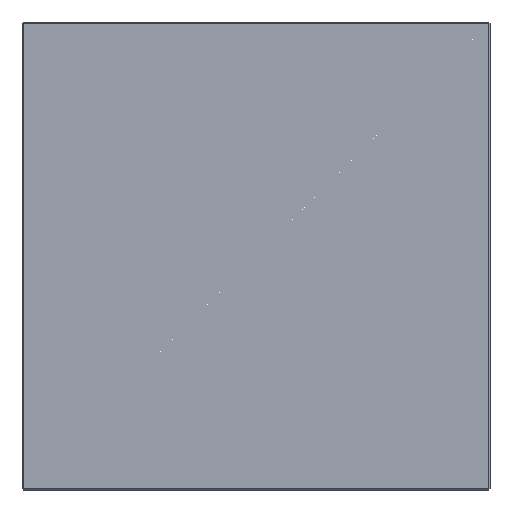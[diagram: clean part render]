
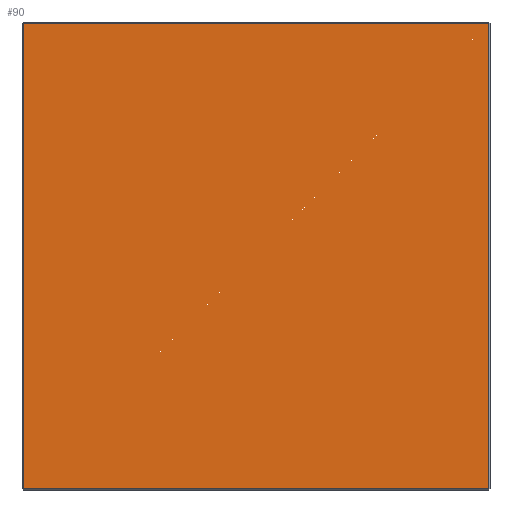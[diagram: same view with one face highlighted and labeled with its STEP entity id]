
A CAD part, front view. The second image highlights one B-rep face of the part: STEP entity #90.
In plain terms, the highlighted planar face has unit normal (0, -1, 0).
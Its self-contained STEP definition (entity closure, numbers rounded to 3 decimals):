
#24 = ORIENTED_EDGE ( 'NONE', *, *, #452, .T. ) ;
#56 = VECTOR ( 'NONE', #174, 1000. ) ;
#60 = EDGE_CURVE ( 'NONE', #337, #297, #433, .T. ) ;
#64 = VECTOR ( 'NONE', #495, 1000. ) ;
#78 = CARTESIAN_POINT ( 'NONE',  ( -172., 0., -172. ) ) ;
#90 = ADVANCED_FACE ( 'NONE', ( #274 ), #239, .F. ) ;
#126 = LINE ( 'NONE', #543, #201 ) ;
#170 = CARTESIAN_POINT ( 'NONE',  ( 172., 0., 0. ) ) ;
#174 = DIRECTION ( 'NONE',  ( 0., 0., 1. ) ) ;
#179 = VERTEX_POINT ( 'NONE', #512 ) ;
#196 = ORIENTED_EDGE ( 'NONE', *, *, #628, .T. ) ;
#197 = VECTOR ( 'NONE', #494, 1000. ) ;
#201 = VECTOR ( 'NONE', #488, 1000. ) ;
#230 = EDGE_CURVE ( 'NONE', #400, #337, #435, .T. ) ;
#239 = PLANE ( 'NONE',  #358 ) ;
#262 = EDGE_LOOP ( 'NONE', ( #498, #24, #196, #533 ) ) ;
#274 = FACE_OUTER_BOUND ( 'NONE', #262, .T. ) ;
#297 = VERTEX_POINT ( 'NONE', #582 ) ;
#333 = CARTESIAN_POINT ( 'NONE',  ( 0., 0., 172. ) ) ;
#337 = VERTEX_POINT ( 'NONE', #601 ) ;
#358 = AXIS2_PLACEMENT_3D ( 'NONE', #475, #436, #426 ) ;
#400 = VERTEX_POINT ( 'NONE', #78 ) ;
#426 = DIRECTION ( 'NONE',  ( 0., 0., 1. ) ) ;
#433 = LINE ( 'NONE', #170, #56 ) ;
#435 = LINE ( 'NONE', #530, #197 ) ;
#436 = DIRECTION ( 'NONE',  ( 0., 1., 0. ) ) ;
#452 = EDGE_CURVE ( 'NONE', #297, #179, #457, .T. ) ;
#457 = LINE ( 'NONE', #333, #64 ) ;
#475 = CARTESIAN_POINT ( 'NONE',  ( 0., 0., 0. ) ) ;
#488 = DIRECTION ( 'NONE',  ( 0., 0., -1. ) ) ;
#494 = DIRECTION ( 'NONE',  ( 1., 0., 0. ) ) ;
#495 = DIRECTION ( 'NONE',  ( -1., 0., 0. ) ) ;
#498 = ORIENTED_EDGE ( 'NONE', *, *, #60, .T. ) ;
#512 = CARTESIAN_POINT ( 'NONE',  ( -172., 0., 172. ) ) ;
#530 = CARTESIAN_POINT ( 'NONE',  ( 0., 0., -172. ) ) ;
#533 = ORIENTED_EDGE ( 'NONE', *, *, #230, .T. ) ;
#543 = CARTESIAN_POINT ( 'NONE',  ( -172., 0., 0. ) ) ;
#582 = CARTESIAN_POINT ( 'NONE',  ( 172., 0., 172. ) ) ;
#601 = CARTESIAN_POINT ( 'NONE',  ( 172., 0., -172. ) ) ;
#628 = EDGE_CURVE ( 'NONE', #179, #400, #126, .T. ) ;
